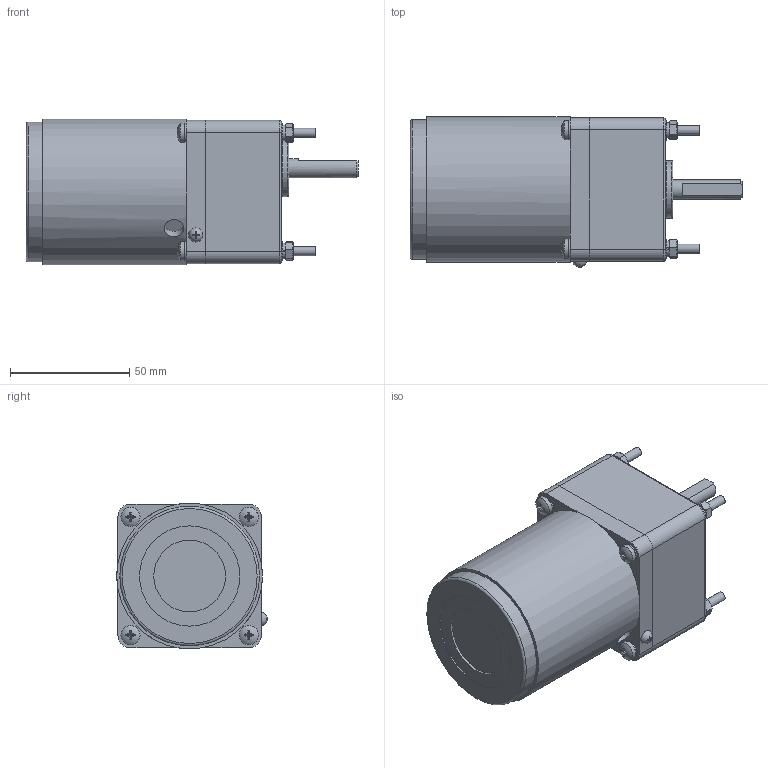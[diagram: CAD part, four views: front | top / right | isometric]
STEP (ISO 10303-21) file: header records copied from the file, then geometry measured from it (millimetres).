
FILE_DESCRIPTION(/* description */ (''),/* implementation_level */ '2;1');
FILE_NAME(/* name */ '60矮箱T-6W普通.stp',/* time_stamp */ '2022-10-31T08:17:57+08:00',/* author */ (''),/* organization */ (''),/* preprocessor_version */ 'ST-DEVELOPER v16.7',/* originating_system */ 'SIEMENS PLM Software NX 1899',/* authorisation */ '');
FILE_SCHEMA (('AP203_CONFIGURATION_CONTROLLED_3D_DESIGN_OF_MECHANICAL_PARTS_AND_ASSEMBLIES_MIM_LF { 1 0 10303 403 2 1 2}'));
Length unit declared in the file: millimetre
Products named in the file (1): yf186188FEB6lby2
Bounding box: 139 x 62.99 x 61 mm (x, y, z)
Volume: 337348.1 mm3; surface area: 45833.5 mm2
Topology: 22 solids, 23 shells, 372 faces, 846 edges, 542 vertices
Faces by surface type: plane 142, bspline 80, cylinder 72, cone 61, torus 11, sphere 6
Full cylindrical faces by diameter (mm): 3 x1, 3.432 x4, 3.838 x4, 4 x4, 4.3 x8, 5.5 x4, 6 x5, 8 x13, 8.2 x1, 24 x1, 30 x1, 42 x1, 52.6 x1, 57 x2, 58.5 x1, 61 x1
Entity records: 11663 total; most frequent: CARTESIAN_POINT 3127, ORIENTED_EDGE 1502, DIRECTION 1298, EDGE_CURVE 751, AXIS2_PLACEMENT_3D 575, VERTEX_POINT 520, EDGE_LOOP 507, ADVANCED_FACE 372
